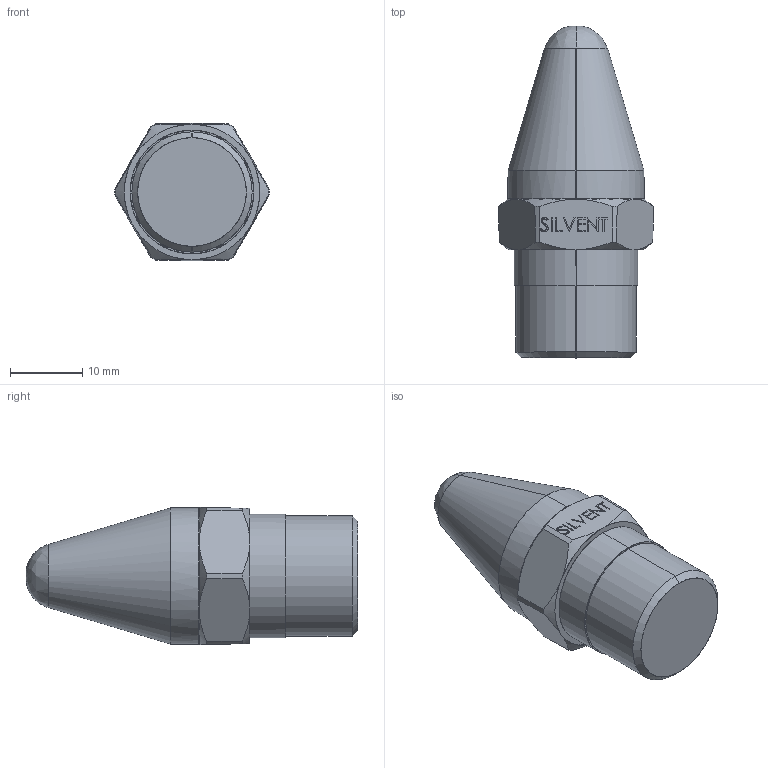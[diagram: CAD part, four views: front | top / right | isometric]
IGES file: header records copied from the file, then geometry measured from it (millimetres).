
Start section: SolidWorks IGES FILE using analytic representation for surfaces
Global section: file name: G:\Silvent\Ritningar\Övrigt\IGES\Silvent 2005.IGS; native system: SolidWorks 2003 by SolidWorks Corporation; preprocessor: Version 5.3; author: Ulf; date: 030923.134617; units: millimetre
Bounding box: 21.46 x 46 x 19 mm (x, y, z)
Surface area: 2626.3 mm2 (no closed solid volume)
Topology: 0 solids, 0 shells, 114 faces, 1064 edges, 1062 vertices
Faces by surface type: bspline 82, revolution 32
